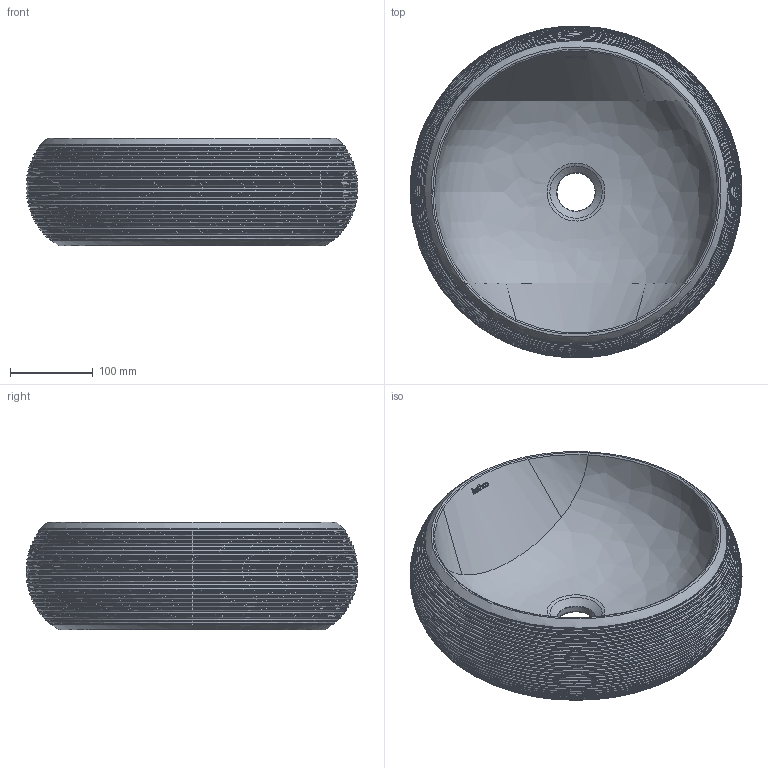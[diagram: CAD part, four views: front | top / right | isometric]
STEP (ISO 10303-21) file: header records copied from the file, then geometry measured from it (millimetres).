
FILE_DESCRIPTION(/* description */ (''),/* implementation_level */ '2;1');
FILE_NAME(/* name */ '00608_~2',/* time_stamp */ '2023-11-15T12:33:16+01:00',/* author */ (''),/* organization */ (''),/* preprocessor_version */ 'ST-DEVELOPER v16.5',/* originating_system */ '',/* authorisation */ '');
FILE_SCHEMA (('CONFIG_CONTROL_DESIGN'));
Length unit declared in the file: millimetre
Products named in the file (1): Document
Bounding box: 400.73 x 400.73 x 130 mm (x, y, z)
Volume: 6013293.6 mm3; surface area: 483392.9 mm2
Topology: 7 solids, 7 shells, 217 faces, 496 edges, 291 vertices
Faces by surface type: bspline 213, plane 3, cylinder 1
Full cylindrical faces by diameter (mm): 46 x1
Entity records: 16713 total; most frequent: CARTESIAN_POINT 13713, ORIENTED_EDGE 992, EDGE_CURVE 496, B_SPLINE_CURVE_WITH_KNOTS 349, VERTEX_POINT 291, EDGE_LOOP 223, ADVANCED_FACE 217, FACE_OUTER_BOUND 217
